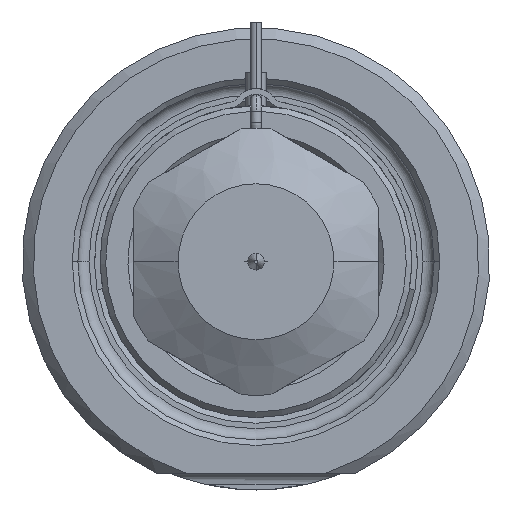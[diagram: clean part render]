
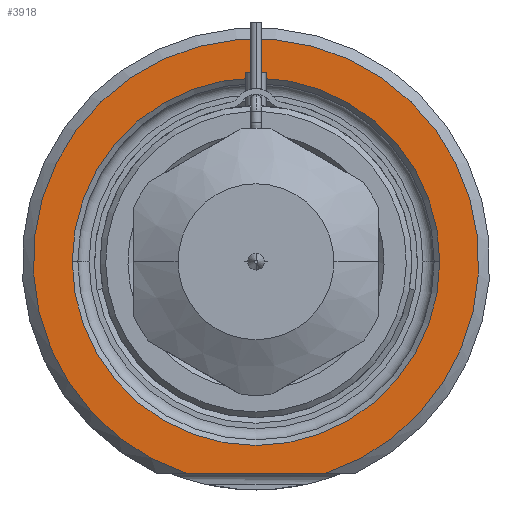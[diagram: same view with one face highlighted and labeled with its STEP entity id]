
A CAD part, front view. The second image highlights one B-rep face of the part: STEP entity #3918.
In plain terms, the highlighted planar face has unit normal (0, -1, 0).
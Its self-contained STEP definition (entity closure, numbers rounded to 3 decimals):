
#1=DIRECTION('',(1.,0.,0.));
#2=VECTOR('',#1,12.49);
#3=CARTESIAN_POINT('',(-6.245,0.,-19.));
#4=LINE('',#3,#2);
#5=CARTESIAN_POINT('',(0.,0.,0.));
#6=DIRECTION('',(0.,1.,0.));
#7=DIRECTION('',(-1.,0.,0.));
#8=AXIS2_PLACEMENT_3D('',#5,#6,#7);
#10=CARTESIAN_POINT('',(0.,0.,0.));
#11=DIRECTION('',(0.,1.,0.));
#12=DIRECTION('',(1.,0.,0.));
#13=AXIS2_PLACEMENT_3D('',#10,#11,#12);
#119=CARTESIAN_POINT('',(0.,0.,0.));
#120=DIRECTION('',(0.,-1.,0.));
#121=DIRECTION('',(0.312,0.,-0.95));
#122=AXIS2_PLACEMENT_3D('',#119,#120,#121);
#3291=CARTESIAN_POINT('',(-16.5,0.,0.));
#3292=CARTESIAN_POINT('',(16.5,0.,0.));
#3293=VERTEX_POINT('',#3291);
#3294=VERTEX_POINT('',#3292);
#3331=CARTESIAN_POINT('',(-6.245,0.,-19.));
#3332=CARTESIAN_POINT('',(6.245,0.,-19.));
#3333=VERTEX_POINT('',#3331);
#3334=VERTEX_POINT('',#3332);
#3901=CARTESIAN_POINT('',(0.,0.,0.));
#3902=DIRECTION('',(0.,-1.,0.));
#3903=DIRECTION('',(1.,0.,0.));
#3904=AXIS2_PLACEMENT_3D('',#3901,#3902,#3903);
#3905=PLANE('',#3904);
#3907=ORIENTED_EDGE('',*,*,#3906,.F.);
#3909=ORIENTED_EDGE('',*,*,#3908,.F.);
#3910=EDGE_LOOP('',(#3907,#3909));
#3911=FACE_OUTER_BOUND('',#3910,.F.);
#3913=ORIENTED_EDGE('',*,*,#3912,.F.);
#3915=ORIENTED_EDGE('',*,*,#3914,.F.);
#3916=EDGE_LOOP('',(#3913,#3915));
#3917=FACE_BOUND('',#3916,.F.);
#3918=ADVANCED_FACE('',(#3911,#3917),#3905,.T.);
#9=CIRCLE('',#8,16.5);
#14=CIRCLE('',#13,16.5);
#123=CIRCLE('',#122,20.);
#3906=EDGE_CURVE('',#3333,#3334,#4,.T.);
#3908=EDGE_CURVE('',#3334,#3333,#123,.T.);
#3912=EDGE_CURVE('',#3293,#3294,#9,.T.);
#3914=EDGE_CURVE('',#3294,#3293,#14,.T.);
